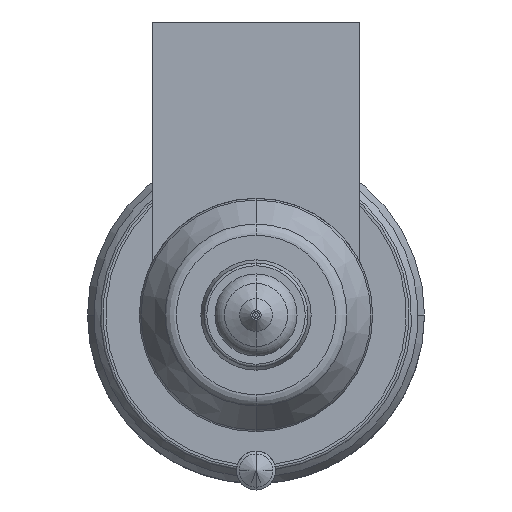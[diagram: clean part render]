
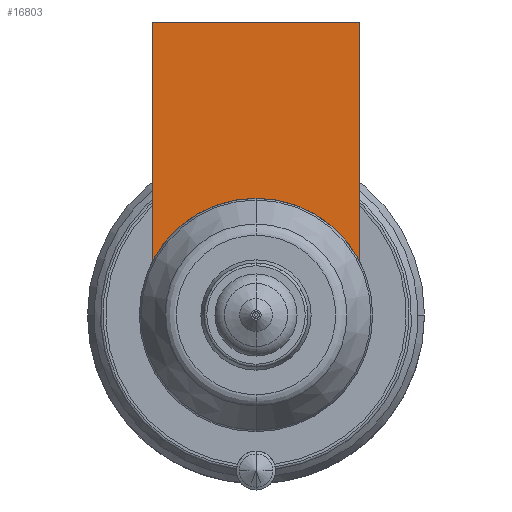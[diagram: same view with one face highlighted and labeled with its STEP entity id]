
A CAD part, front view. The second image highlights one B-rep face of the part: STEP entity #16803.
In plain terms, the highlighted planar face has unit normal (0, -1, 0).
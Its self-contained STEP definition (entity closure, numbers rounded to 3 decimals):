
#15383=DIRECTION('',(0.,0.,-1.));
#15384=VECTOR('',#15383,18.481);
#15385=CARTESIAN_POINT('',(-8.,-54.,22.604));
#15386=LINE('',#15385,#15384);
#15983=CARTESIAN_POINT('',(0.,-54.,0.));
#15984=DIRECTION('',(0.,-1.,0.));
#15985=DIRECTION('',(0.,0.,1.));
#15986=AXIS2_PLACEMENT_3D('',#15983,#15984,#15985);
#15991=DIRECTION('',(1.,0.,0.));
#15992=VECTOR('',#15991,16.);
#15993=CARTESIAN_POINT('',(-8.,-54.,22.604));
#15994=LINE('',#15993,#15992);
#15998=CARTESIAN_POINT('',(0.,-54.,0.));
#15999=DIRECTION('',(0.,-1.,0.));
#16000=DIRECTION('',(0.889,0.,0.458));
#16001=AXIS2_PLACEMENT_3D('',#15998,#15999,#16000);
#16084=DIRECTION('',(0.,0.,-1.));
#16085=VECTOR('',#16084,18.481);
#16086=CARTESIAN_POINT('',(8.,-54.,22.604));
#16087=LINE('',#16086,#16085);
#16189=CARTESIAN_POINT('',(-8.,-54.,22.604));
#16190=VERTEX_POINT('',#16189);
#16195=CARTESIAN_POINT('',(8.,-54.,22.604));
#16196=VERTEX_POINT('',#16195);
#16198=CARTESIAN_POINT('',(-8.,-54.,4.123));
#16200=VERTEX_POINT('',#16198);
#16202=CARTESIAN_POINT('',(8.,-54.,4.123));
#16204=VERTEX_POINT('',#16202);
#16205=CARTESIAN_POINT('',(0.,-54.,9.));
#16206=VERTEX_POINT('',#16205);
#16789=CARTESIAN_POINT('',(-8.,-54.,22.604));
#16790=DIRECTION('',(0.,-1.,0.));
#16791=DIRECTION('',(0.,0.,-1.));
#16792=AXIS2_PLACEMENT_3D('',#16789,#16790,#16791);
#16793=PLANE('',#16792);
#16794=ORIENTED_EDGE('',*,*,#16246,.T.);
#16795=ORIENTED_EDGE('',*,*,#16229,.F.);
#16797=ORIENTED_EDGE('',*,*,#16796,.T.);
#16799=ORIENTED_EDGE('',*,*,#16798,.T.);
#16800=ORIENTED_EDGE('',*,*,#16294,.T.);
#16801=EDGE_LOOP('',(#16794,#16795,#16797,#16799,#16800));
#16802=FACE_OUTER_BOUND('',#16801,.F.);
#16803=ADVANCED_FACE('',(#16802),#16793,.T.);
#15987=CIRCLE('',#15986,9.);
#16002=CIRCLE('',#16001,9.);
#16229=EDGE_CURVE('',#16190,#16200,#15386,.T.);
#16246=EDGE_CURVE('',#16206,#16200,#15987,.T.);
#16294=EDGE_CURVE('',#16204,#16206,#16002,.T.);
#16796=EDGE_CURVE('',#16190,#16196,#15994,.T.);
#16798=EDGE_CURVE('',#16196,#16204,#16087,.T.);
